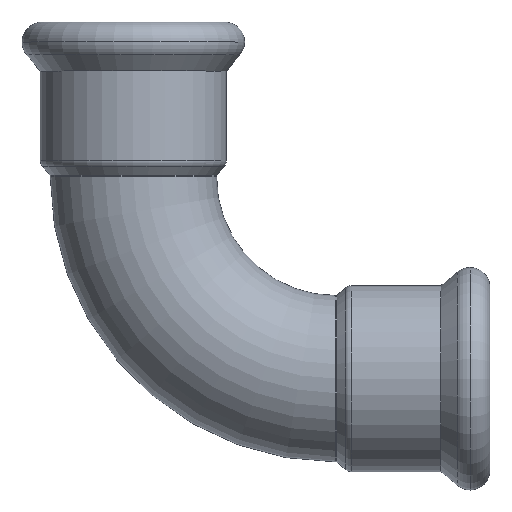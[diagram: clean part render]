
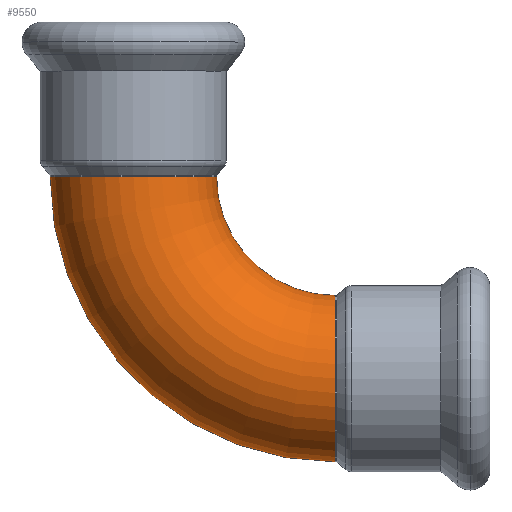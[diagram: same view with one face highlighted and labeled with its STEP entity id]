
A CAD part, top view. The second image highlights one B-rep face of the part: STEP entity #9550.
In plain terms, the highlighted toroidal (fillet/blend) face has major radius 34 mm and minor radius 14 mm.
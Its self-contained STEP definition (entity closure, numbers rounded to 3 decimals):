
#4580=CARTESIAN_POINT('',(-418.306,41.673,0.));
#4590=VERTEX_POINT('',#4580);
#4680=CARTESIAN_POINT('',(-390.306,41.673,
0.));
#4690=VERTEX_POINT('',#4680);
#4720=CARTESIAN_POINT('',(-404.306,41.673,0.));
#4730=DIRECTION('',(0.,-1.,0.));
#4740=DIRECTION('',(-1.,0.,0.));
#4750=AXIS2_PLACEMENT_3D('',#4720,#4730,#4740);
#4760=CIRCLE('',#4750,14.);
#4770=EDGE_CURVE('',#4690,#4590,#4760,.T.);
#4820=CARTESIAN_POINT('',(-370.306,41.673,0.));
#4830=DIRECTION('',(0.,0.,1.));
#4840=DIRECTION('',(-1.,0.,0.));
#4850=AXIS2_PLACEMENT_3D('',#4820,#4830,#4840);
#4860=TOROIDAL_SURFACE('',#4850,34.,14.);
#4870=CARTESIAN_POINT('',(-370.306,7.673,0.));
#4880=DIRECTION('',(1.,0.,0.));
#4890=DIRECTION('',(0.,-1.,0.));
#4900=AXIS2_PLACEMENT_3D('',#4870,#4880,#4890);
#4910=CIRCLE('',#4900,14.);
#4940=CARTESIAN_POINT('',(-370.306,21.673,
0.));
#4950=VERTEX_POINT('',#4940);
#4980=CARTESIAN_POINT('',(-370.306,41.673,
0.));
#4990=DIRECTION('',(0.,0.,1.));
#5000=DIRECTION('',(-1.,0.,0.));
#5010=AXIS2_PLACEMENT_3D('',#4980,#4990,#5000);
#5020=CIRCLE('',#5010,20.);
#5030=EDGE_CURVE('',#4690,#4950,#5020,.T.);
#5120=CARTESIAN_POINT('',(-370.306,41.673,
0.));
#5130=DIRECTION('',(0.,0.,1.));
#5140=DIRECTION('',(-1.,0.,0.));
#5150=AXIS2_PLACEMENT_3D('',#5120,#5130,#5140);
#5160=CIRCLE('',#5150,48.);
#5170=CARTESIAN_POINT('',(-370.306,-6.327,
0.));
#5180=VERTEX_POINT('',#5170);
#5190=EDGE_CURVE('',#4590,#5180,#5160,.T.);
#8690=EDGE_CURVE('',#4950,#5180,#4910,.T.);
#9490=ORIENTED_EDGE('',*,*,#5030,.F.);
#9500=ORIENTED_EDGE('',*,*,#8690,.F.);
#9510=ORIENTED_EDGE('',*,*,#5190,.T.);
#9520=ORIENTED_EDGE('',*,*,#4770,.T.);
#9530=EDGE_LOOP('',(#9520,#9510,#9500,#9490));
#9540=FACE_OUTER_BOUND('',#9530,.T.);
#9550=ADVANCED_FACE('',(#9540),#4860,.T.);
